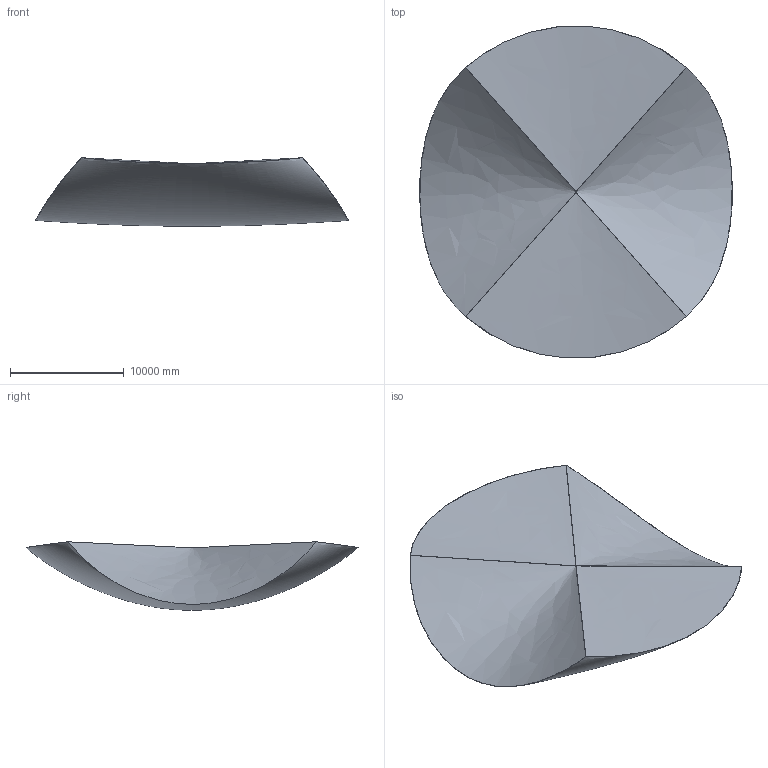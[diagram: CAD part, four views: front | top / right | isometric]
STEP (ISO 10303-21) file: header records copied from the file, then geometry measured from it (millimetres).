
FILE_DESCRIPTION(/* description */ (''),/* implementation_level */ '2;1');
FILE_NAME(/* name */ '20260326-FOV180-平台开模版本.stp',/* time_stamp */ '2026-03-26T14:00:07+08:00',/* author */ (''),/* organization */ (''),/* preprocessor_version */ 'ST-DEVELOPER v16.7',/* originating_system */ 'SIEMENS PLM Software NX 1934',/* authorisation */ '');
FILE_SCHEMA (('AUTOMOTIVE_DESIGN { 1 0 10303 214 3 1 1 1 }'));
Products named in the file (1): lizh725C5C54c2bv
Bounding box: 27493.52 x 29195.02 x 6020.38 mm (x, y, z)
Volume: 3613864271421.9 mm3; surface area: 2879109594.5 mm2
Topology: 13 solids, 13 shells, 4406 faces, 11194 edges, 6910 vertices
Faces by surface type: plane 2004, cylinder 1415, torus 374, bspline 306, cone 222, sphere 84, revolution 1
Full cylindrical faces by diameter (mm): 1.6 x6, 2 x2, 2.13 x2, 2.5 x3, 2.6 x2, 4 x2, 6 x2, 14.1 x1, 14.5 x2, 15.9 x1, 16 x1, 17.6 x1, 18.3 x1, 18.6 x1, 20.4 x2, 22.9 x1, 23.1 x1, 23.3 x2, 24.7 x1, 27.1 x1
Entity records: 505964 total; most frequent: CARTESIAN_POINT 400751, ORIENTED_EDGE 22024, DIRECTION 19557, EDGE_CURVE 11012, VERTEX_POINT 6889, AXIS2_PLACEMENT_3D 6553, LINE 6450, VECTOR 6450
